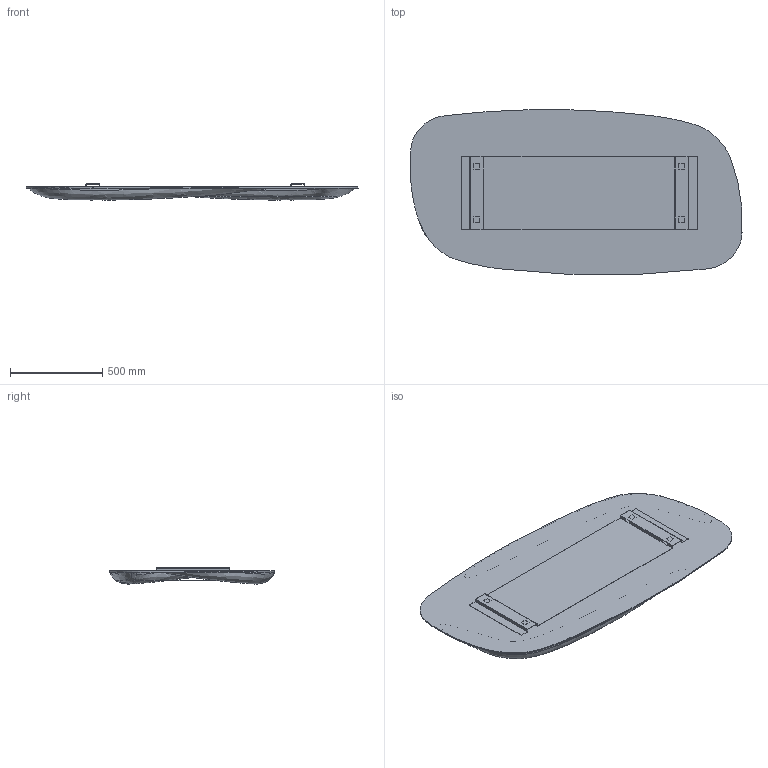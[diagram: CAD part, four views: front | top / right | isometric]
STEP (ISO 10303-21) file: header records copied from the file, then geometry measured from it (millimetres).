
FILE_DESCRIPTION (( 'STEP AP203' ), '1' );
FILE_NAME ('AST02_Astrum_180x90.STEP', '2024-08-06T07:19:09', ( '' ), ( '' ), 'SwSTEP 2.0', 'SolidWorks 2022', '' );
FILE_SCHEMA (( 'CONFIG_CONTROL_DESIGN' ));
Length unit declared in the file: millimetre
Products named in the file (5): ASTRUM 180X90; AST02_Astrum_180x90; ASTRUM_lamiera ancoraggio rettangolare; SPECCHIO 180x90; Parte2^ASTRUM 180X90
Assembly tree (3 placements, depth 3):
  AST02_Astrum_180x90
    ASTRUM 180X90
      SPECCHIO 180x90
    ASTRUM_lamiera ancoraggio rettangolare
  Parte2^ASTRUM 180X90
Bounding box: 1800.27 x 894.65 x 87.36 mm (x, y, z)
Volume: 791929.9 mm3; surface area: 6662615 mm2
Topology: 1 solids, 5 shells, 185 faces, 453 edges, 270 vertices
Faces by surface type: plane 103, cylinder 76, bspline 6
Entity records: 60902 total; most frequent: CARTESIAN_POINT 55990, DIRECTION 967, ORIENTED_EDGE 906, EDGE_CURVE 453, AXIS2_PLACEMENT_3D 339, LINE 289, VECTOR 289, VERTEX_POINT 270
